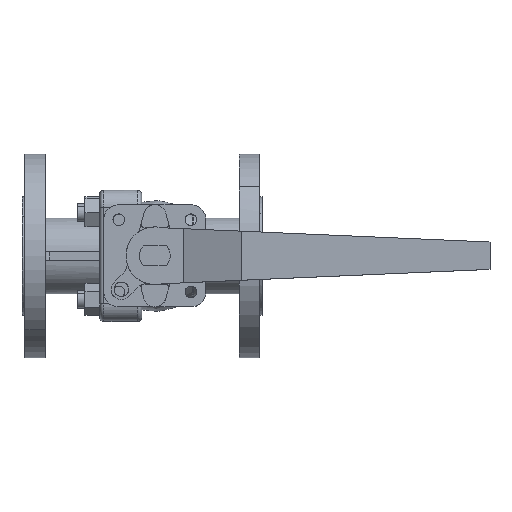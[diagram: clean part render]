
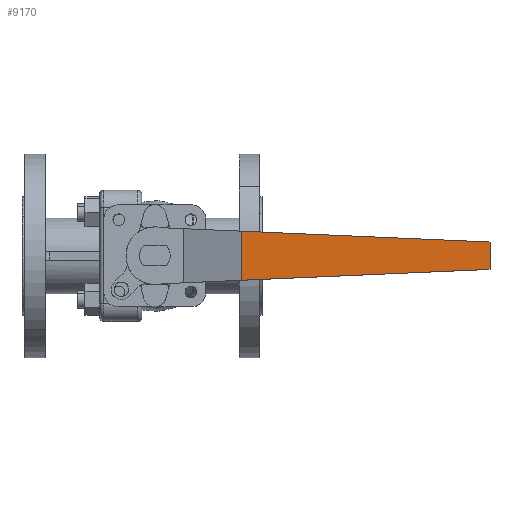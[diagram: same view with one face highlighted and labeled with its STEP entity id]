
A CAD part, top view. The second image highlights one B-rep face of the part: STEP entity #9170.
In plain terms, the highlighted free-form (B-spline) face has degree [1, 1] with [2, 2] control points.
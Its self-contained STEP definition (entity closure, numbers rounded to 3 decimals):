
#9112=CARTESIAN_POINT('',(59.638,113.,-16.846));
#9113=VERTEX_POINT('',#9112);
#9128=CARTESIAN_POINT('',(59.638,113.,16.846));
#9129=VERTEX_POINT('',#9128);
#9135=CARTESIAN_POINT('',(59.638,113.,16.846));
#9136=CARTESIAN_POINT('',(59.638,113.,-16.846));
#9137=QUASI_UNIFORM_CURVE('',1,(#9135,#9136),.UNSPECIFIED.,.F.,.U.);
#9138=EDGE_CURVE('',#9129,#9113,#9137,.T.);
#9143=CARTESIAN_POINT('',(51.129,113.,-18.529));
#9144=CARTESIAN_POINT('',(238.51,113.,-18.529));
#9145=CARTESIAN_POINT('',(51.129,113.,18.529));
#9146=CARTESIAN_POINT('',(238.51,113.,18.529));
#9147=B_SPLINE_SURFACE_WITH_KNOTS('',1,1,((#9143,#9145),(#9144,#9146)),.UNSPECIFIED.,.F.,.F.,.U.,(2,2),(2,2),(0.,187.381),(0.,37.058),.UNSPECIFIED.);
#9148=CARTESIAN_POINT('',(230.,113.,-9.408));
#9149=VERTEX_POINT('',#9148);
#9150=CARTESIAN_POINT('',(230.,113.,-9.408));
#9151=CARTESIAN_POINT('',(59.638,113.,-16.846));
#9152=QUASI_UNIFORM_CURVE('',1,(#9150,#9151),.UNSPECIFIED.,.F.,.U.);
#9153=EDGE_CURVE('',#9149,#9113,#9152,.T.);
#9154=ORIENTED_EDGE('',*,*,#9153,.T.);
#9155=ORIENTED_EDGE('',*,*,#9138,.F.);
#9156=CARTESIAN_POINT('',(230.,113.,9.408));
#9157=VERTEX_POINT('',#9156);
#9158=CARTESIAN_POINT('',(230.,113.,9.408));
#9159=CARTESIAN_POINT('',(59.638,113.,16.846));
#9160=QUASI_UNIFORM_CURVE('',1,(#9158,#9159),.UNSPECIFIED.,.F.,.U.);
#9161=EDGE_CURVE('',#9157,#9129,#9160,.T.);
#9162=ORIENTED_EDGE('',*,*,#9161,.F.);
#9163=CARTESIAN_POINT('',(230.,113.,9.408));
#9164=CARTESIAN_POINT('',(230.,113.,-9.408));
#9165=QUASI_UNIFORM_CURVE('',1,(#9163,#9164),.UNSPECIFIED.,.F.,.U.);
#9166=EDGE_CURVE('',#9157,#9149,#9165,.T.);
#9167=ORIENTED_EDGE('',*,*,#9166,.T.);
#9168=EDGE_LOOP('',(#9154,#9155,#9162,#9167));
#9169=FACE_OUTER_BOUND('',#9168,.T.);
#9170=ADVANCED_FACE('',(#9169),#9147,.F.);
